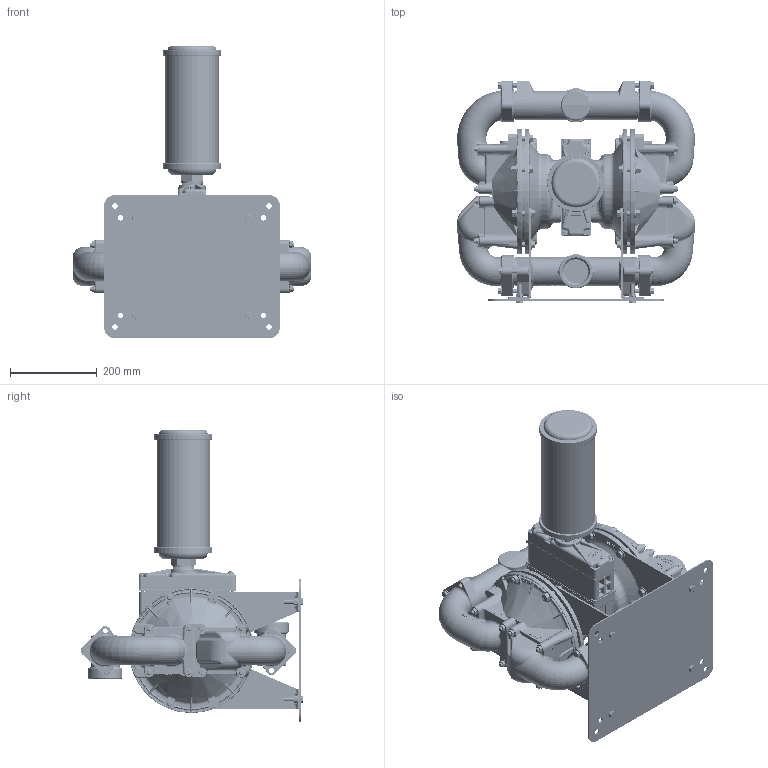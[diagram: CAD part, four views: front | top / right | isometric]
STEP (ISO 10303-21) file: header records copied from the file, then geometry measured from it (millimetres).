
FILE_DESCRIPTION (( 'STEP AP203' ), '1' );
FILE_NAME ('ps810_brahma_top.STEP', '2022-06-14T06:54:20', ( '' ), ( '' ), 'SwSTEP 2.0', 'SolidWorks 2019', '' );
FILE_SCHEMA (( 'CONFIG_CONTROL_DESIGN' ));
Length unit declared in the file: inch
Products named in the file (1): ps810_brahma_top
Bounding box: 550.46 x 514.73 x 674.93 mm (x, y, z)
Volume: 25398218.1 mm3; surface area: 1715172.6 mm2
Topology: 1 solids, 1 shells, 16490 faces, 43299 edges, 27483 vertices
Faces by surface type: plane 11101, bspline 1936, cylinder 1636, cone 1032, torus 499, sphere 286
Entity records: 863997 total; most frequent: CARTESIAN_POINT 474658, ORIENTED_EDGE 86562, DIRECTION 72110, EDGE_CURVE 43281, VECTOR 29382, LINE 29382, VERTEX_POINT 27483, AXIS2_PLACEMENT_3D 21364
